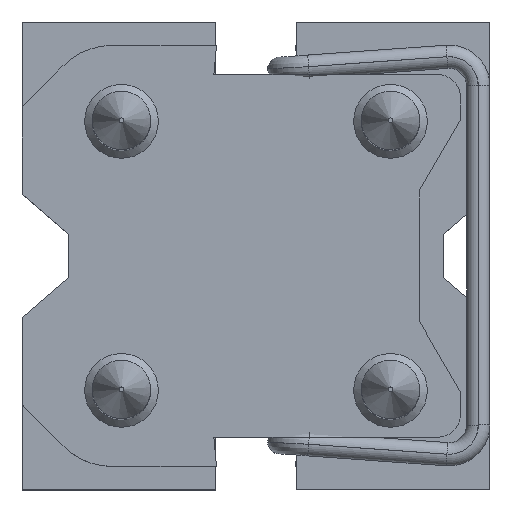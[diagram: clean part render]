
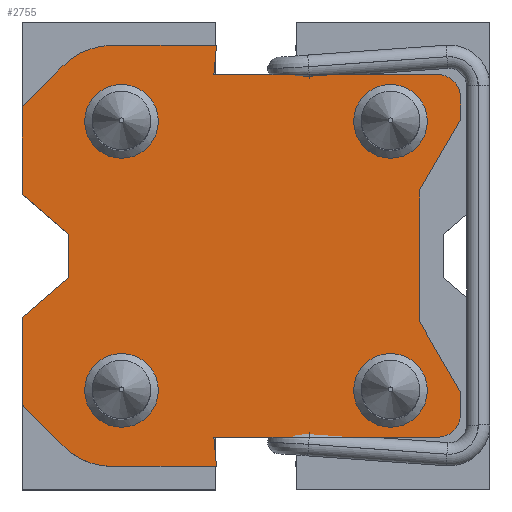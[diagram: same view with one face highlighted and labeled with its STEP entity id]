
A CAD part, top view. The second image highlights one B-rep face of the part: STEP entity #2755.
In plain terms, the highlighted planar face has unit normal (0, 0, 1) as drawn and (0, 0, -1) by its records, which use the part's own axes.
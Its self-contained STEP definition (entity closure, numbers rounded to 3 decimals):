
#155=PLANE('',#3011);
#296=LINE('',#4304,#562);
#301=LINE('',#4319,#567);
#304=LINE('',#4325,#570);
#329=LINE('',#4395,#595);
#330=LINE('',#4397,#596);
#331=LINE('',#4399,#597);
#332=LINE('',#4401,#598);
#333=LINE('',#4403,#599);
#334=LINE('',#4407,#600);
#335=LINE('',#4409,#601);
#336=LINE('',#4411,#602);
#337=LINE('',#4415,#603);
#338=LINE('',#4417,#604);
#339=LINE('',#4419,#605);
#340=LINE('',#4421,#606);
#341=LINE('',#4423,#607);
#342=LINE('',#4427,#608);
#343=LINE('',#4429,#609);
#562=VECTOR('',#3460,1000.);
#567=VECTOR('',#3473,1000.);
#570=VECTOR('',#3478,1000.);
#595=VECTOR('',#3527,1000.);
#596=VECTOR('',#3528,1000.);
#597=VECTOR('',#3529,1000.);
#598=VECTOR('',#3530,1000.);
#599=VECTOR('',#3531,1000.);
#600=VECTOR('',#3534,1000.);
#601=VECTOR('',#3535,1000.);
#602=VECTOR('',#3536,1000.);
#603=VECTOR('',#3539,1000.);
#604=VECTOR('',#3540,1000.);
#605=VECTOR('',#3541,1000.);
#606=VECTOR('',#3542,1000.);
#607=VECTOR('',#3543,1000.);
#608=VECTOR('',#3546,1000.);
#609=VECTOR('',#3547,1000.);
#1018=ORIENTED_EDGE('',*,*,#1670,.T.);
#1019=ORIENTED_EDGE('',*,*,#1671,.T.);
#1020=ORIENTED_EDGE('',*,*,#1672,.T.);
#1021=ORIENTED_EDGE('',*,*,#1673,.T.);
#1022=ORIENTED_EDGE('',*,*,#1633,.F.);
#1023=ORIENTED_EDGE('',*,*,#1629,.T.);
#1024=ORIENTED_EDGE('',*,*,#1639,.F.);
#1025=ORIENTED_EDGE('',*,*,#1674,.F.);
#1026=ORIENTED_EDGE('',*,*,#1675,.F.);
#1027=ORIENTED_EDGE('',*,*,#1676,.F.);
#1028=ORIENTED_EDGE('',*,*,#1677,.F.);
#1029=ORIENTED_EDGE('',*,*,#1678,.F.);
#1030=ORIENTED_EDGE('',*,*,#1679,.F.);
#1031=ORIENTED_EDGE('',*,*,#1680,.F.);
#1032=ORIENTED_EDGE('',*,*,#1681,.F.);
#1033=ORIENTED_EDGE('',*,*,#1682,.F.);
#1034=ORIENTED_EDGE('',*,*,#1683,.F.);
#1035=ORIENTED_EDGE('',*,*,#1684,.F.);
#1036=ORIENTED_EDGE('',*,*,#1685,.F.);
#1037=ORIENTED_EDGE('',*,*,#1686,.F.);
#1038=ORIENTED_EDGE('',*,*,#1687,.F.);
#1039=ORIENTED_EDGE('',*,*,#1688,.F.);
#1040=ORIENTED_EDGE('',*,*,#1689,.F.);
#1041=ORIENTED_EDGE('',*,*,#1690,.T.);
#1042=ORIENTED_EDGE('',*,*,#1691,.F.);
#1043=ORIENTED_EDGE('',*,*,#1636,.T.);
#1629=EDGE_CURVE('',#1983,#1984,#296,.T.);
#1633=EDGE_CURVE('',#1983,#1987,#2181,.T.);
#1636=EDGE_CURVE('',#1989,#1987,#301,.T.);
#1639=EDGE_CURVE('',#1991,#1984,#304,.T.);
#1670=EDGE_CURVE('',#2020,#2020,#2189,.T.);
#1671=EDGE_CURVE('',#2021,#2021,#2190,.T.);
#1672=EDGE_CURVE('',#2022,#2022,#2191,.T.);
#1673=EDGE_CURVE('',#2023,#2023,#2192,.T.);
#1674=EDGE_CURVE('',#2024,#1991,#329,.T.);
#1675=EDGE_CURVE('',#2025,#2024,#330,.T.);
#1676=EDGE_CURVE('',#2026,#2025,#331,.T.);
#1677=EDGE_CURVE('',#2027,#2026,#332,.T.);
#1678=EDGE_CURVE('',#2028,#2027,#333,.T.);
#1679=EDGE_CURVE('',#2029,#2028,#2193,.T.);
#1680=EDGE_CURVE('',#2030,#2029,#334,.T.);
#1681=EDGE_CURVE('',#2031,#2030,#335,.T.);
#1682=EDGE_CURVE('',#2032,#2031,#336,.T.);
#1683=EDGE_CURVE('',#2033,#2032,#2194,.T.);
#1684=EDGE_CURVE('',#2034,#2033,#337,.T.);
#1685=EDGE_CURVE('',#2035,#2034,#338,.T.);
#1686=EDGE_CURVE('',#2036,#2035,#339,.T.);
#1687=EDGE_CURVE('',#2037,#2036,#340,.T.);
#1688=EDGE_CURVE('',#2038,#2037,#341,.T.);
#1689=EDGE_CURVE('',#2039,#2038,#2195,.T.);
#1690=EDGE_CURVE('',#2039,#2040,#342,.T.);
#1691=EDGE_CURVE('',#1989,#2040,#343,.T.);
#1983=VERTEX_POINT('',#4305);
#1984=VERTEX_POINT('',#4306);
#1987=VERTEX_POINT('',#4314);
#1989=VERTEX_POINT('',#4320);
#1991=VERTEX_POINT('',#4326);
#2020=VERTEX_POINT('',#4388);
#2021=VERTEX_POINT('',#4390);
#2022=VERTEX_POINT('',#4392);
#2023=VERTEX_POINT('',#4394);
#2024=VERTEX_POINT('',#4396);
#2025=VERTEX_POINT('',#4398);
#2026=VERTEX_POINT('',#4400);
#2027=VERTEX_POINT('',#4402);
#2028=VERTEX_POINT('',#4404);
#2029=VERTEX_POINT('',#4406);
#2030=VERTEX_POINT('',#4408);
#2031=VERTEX_POINT('',#4410);
#2032=VERTEX_POINT('',#4412);
#2033=VERTEX_POINT('',#4414);
#2034=VERTEX_POINT('',#4416);
#2035=VERTEX_POINT('',#4418);
#2036=VERTEX_POINT('',#4420);
#2037=VERTEX_POINT('',#4422);
#2038=VERTEX_POINT('',#4424);
#2039=VERTEX_POINT('',#4426);
#2040=VERTEX_POINT('',#4428);
#2181=CIRCLE('',#3000,6.);
#2189=CIRCLE('',#3012,3.15);
#2190=CIRCLE('',#3013,3.15);
#2191=CIRCLE('',#3014,3.15);
#2192=CIRCLE('',#3015,3.15);
#2193=CIRCLE('',#3016,6.);
#2194=CIRCLE('',#3017,2.);
#2195=CIRCLE('',#3018,2.);
#2337=EDGE_LOOP('',(#1018));
#2338=EDGE_LOOP('',(#1019));
#2339=EDGE_LOOP('',(#1020));
#2340=EDGE_LOOP('',(#1021));
#2341=EDGE_LOOP('',(#1022,#1023,#1024,#1025,#1026,#1027,#1028,#1029,#1030,
#1031,#1032,#1033,#1034,#1035,#1036,#1037,#1038,#1039,#1040,#1041,#1042,
#1043));
#2531=FACE_BOUND('',#2337,.T.);
#2532=FACE_BOUND('',#2338,.T.);
#2533=FACE_BOUND('',#2339,.T.);
#2534=FACE_BOUND('',#2340,.T.);
#2535=FACE_BOUND('',#2341,.T.);
#2755=ADVANCED_FACE('',(#2531,#2532,#2533,#2534,#2535),#155,.F.);
#3000=AXIS2_PLACEMENT_3D('',#4313,#3466,#3467);
#3011=AXIS2_PLACEMENT_3D('',#4386,#3517,#3518);
#3012=AXIS2_PLACEMENT_3D('',#4387,#3519,#3520);
#3013=AXIS2_PLACEMENT_3D('',#4389,#3521,#3522);
#3014=AXIS2_PLACEMENT_3D('',#4391,#3523,#3524);
#3015=AXIS2_PLACEMENT_3D('',#4393,#3525,#3526);
#3016=AXIS2_PLACEMENT_3D('',#4405,#3532,#3533);
#3017=AXIS2_PLACEMENT_3D('',#4413,#3537,#3538);
#3018=AXIS2_PLACEMENT_3D('',#4425,#3544,#3545);
#3460=DIRECTION('',(0.707,-0.707,0.));
#3466=DIRECTION('',(0.,0.,1.));
#3467=DIRECTION('',(1.,0.,0.));
#3473=DIRECTION('',(1.,0.,0.));
#3478=DIRECTION('',(0.,1.,0.));
#3517=DIRECTION('',(0.,0.,1.));
#3518=DIRECTION('',(1.,0.,0.));
#3519=DIRECTION('',(0.,0.,1.));
#3520=DIRECTION('',(1.,0.,0.));
#3521=DIRECTION('',(0.,0.,1.));
#3522=DIRECTION('',(1.,0.,0.));
#3523=DIRECTION('',(0.,0.,1.));
#3524=DIRECTION('',(1.,0.,0.));
#3525=DIRECTION('',(0.,0.,1.));
#3526=DIRECTION('',(1.,0.,0.));
#3527=DIRECTION('',(0.76,0.649,0.));
#3528=DIRECTION('',(0.,1.,0.));
#3529=DIRECTION('',(-0.76,0.649,0.));
#3530=DIRECTION('',(0.,1.,0.));
#3531=DIRECTION('',(0.707,0.707,0.));
#3532=DIRECTION('',(0.,0.,1.));
#3533=DIRECTION('',(1.,0.,0.));
#3534=DIRECTION('',(1.,0.,0.));
#3535=DIRECTION('',(-0.087,-0.996,0.));
#3536=DIRECTION('',(1.,0.,0.));
#3537=DIRECTION('',(0.,0.,1.));
#3538=DIRECTION('',(0.,1.,0.));
#3539=DIRECTION('',(0.,-1.,0.));
#3540=DIRECTION('',(-0.5,-0.866,0.));
#3541=DIRECTION('',(0.,-1.,0.));
#3542=DIRECTION('',(0.5,-0.866,0.));
#3543=DIRECTION('',(0.,-1.,0.));
#3544=DIRECTION('',(0.,0.,1.));
#3545=DIRECTION('',(0.,-1.,0.));
#3546=DIRECTION('',(1.,0.,0.));
#3547=DIRECTION('',(0.087,-0.996,0.));
#4304=CARTESIAN_POINT('',(16.371,16.371,-5.));
#4305=CARTESIAN_POINT('',(16.5,16.243,-5.));
#4306=CARTESIAN_POINT('',(20.,12.743,-5.));
#4313=CARTESIAN_POINT('',(12.257,12.,-5.));
#4314=CARTESIAN_POINT('',(12.257,18.,-5.));
#4319=CARTESIAN_POINT('',(-20.,18.,-5.));
#4320=CARTESIAN_POINT('',(3.381,18.,-5.));
#4325=CARTESIAN_POINT('',(20.,-20.,-5.));
#4326=CARTESIAN_POINT('',(20.,5.266,-5.));
#4386=CARTESIAN_POINT('',(-20.,20.,-5.));
#4387=CARTESIAN_POINT('',(11.5,-11.5,-5.));
#4388=CARTESIAN_POINT('',(14.65,-11.5,-5.));
#4389=CARTESIAN_POINT('',(11.5,11.5,-5.));
#4390=CARTESIAN_POINT('',(14.65,11.5,-5.));
#4391=CARTESIAN_POINT('',(-11.5,11.5,-5.));
#4392=CARTESIAN_POINT('',(-8.35,11.5,-5.));
#4393=CARTESIAN_POINT('',(-11.5,-11.5,-5.));
#4394=CARTESIAN_POINT('',(-8.35,-11.5,-5.));
#4395=CARTESIAN_POINT('',(16.,1.85,-5.));
#4396=CARTESIAN_POINT('',(16.,1.85,-5.));
#4397=CARTESIAN_POINT('',(16.,-1.85,-5.));
#4398=CARTESIAN_POINT('',(16.,-1.85,-5.));
#4399=CARTESIAN_POINT('',(20.,-5.266,-5.));
#4400=CARTESIAN_POINT('',(20.,-5.266,-5.));
#4401=CARTESIAN_POINT('',(20.,-20.,-5.));
#4402=CARTESIAN_POINT('',(20.,-12.743,-5.));
#4403=CARTESIAN_POINT('',(16.371,-16.371,-5.));
#4404=CARTESIAN_POINT('',(16.5,-16.243,-5.));
#4405=CARTESIAN_POINT('',(12.257,-12.,-5.));
#4406=CARTESIAN_POINT('',(12.257,-18.,-5.));
#4407=CARTESIAN_POINT('',(-20.,-18.,-5.));
#4408=CARTESIAN_POINT('',(3.381,-18.,-5.));
#4409=CARTESIAN_POINT('',(3.6,-15.5,-5.));
#4410=CARTESIAN_POINT('',(3.6,-15.5,-5.));
#4411=CARTESIAN_POINT('',(-3.5,-15.5,-5.));
#4412=CARTESIAN_POINT('',(-15.5,-15.5,-5.));
#4413=CARTESIAN_POINT('',(-15.5,-13.5,-5.));
#4414=CARTESIAN_POINT('',(-17.5,-13.5,-5.));
#4415=CARTESIAN_POINT('',(-17.5,-11.7,-5.));
#4416=CARTESIAN_POINT('',(-17.5,-11.7,-5.));
#4417=CARTESIAN_POINT('',(-14.,-5.638,-5.));
#4418=CARTESIAN_POINT('',(-14.,-5.638,-5.));
#4419=CARTESIAN_POINT('',(-14.,-5.638,-5.));
#4420=CARTESIAN_POINT('',(-14.,5.638,-5.));
#4421=CARTESIAN_POINT('',(-14.,5.638,-5.));
#4422=CARTESIAN_POINT('',(-17.5,11.7,-5.));
#4423=CARTESIAN_POINT('',(-17.5,13.5,-5.));
#4424=CARTESIAN_POINT('',(-17.5,13.5,-5.));
#4425=CARTESIAN_POINT('',(-15.5,13.5,-5.));
#4426=CARTESIAN_POINT('',(-15.5,15.5,-5.));
#4427=CARTESIAN_POINT('',(-3.5,15.5,-5.));
#4428=CARTESIAN_POINT('',(3.6,15.5,-5.));
#4429=CARTESIAN_POINT('',(3.206,20.,-5.));
